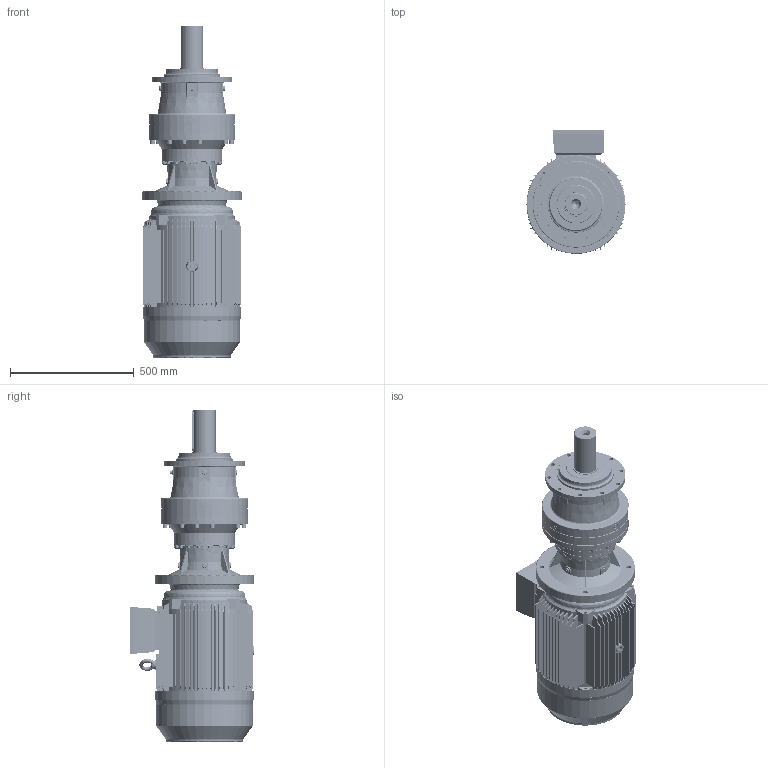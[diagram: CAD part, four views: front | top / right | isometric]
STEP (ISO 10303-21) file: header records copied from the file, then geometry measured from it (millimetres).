
FILE_DESCRIPTION (( 'STEP AP203' ), '1' );
FILE_NAME ('PVL-2302L-HS200-4.STEP', '2019-05-22T09:02:17', ( '' ), ( '' ), 'SwSTEP 2.0', 'SolidWorks 2012', '' );
FILE_SCHEMA (( 'CONFIG_CONTROL_DESIGN' ));
Products named in the file (18): PVL-2302L-HS200-4; HS200-4-B5; 200-4B5; ﾍﾟYE3-200L-4.6.8C+ﾎA+ｳ_-ｼ+､; Plain parallel keys_GB_CONNECTING_PIECE_KEYS_CSK 16X100; Y2-200-4.6.8¦¾Íß¦ð-Ô©Ã_-¼+¤; Y2-200-2.4.6.8ｦｾﾂ-ｩﾃ_-ｼ+､; Y2-200-4.6.8Ã¦Íß¦ð-Ô©Ã_-¼+¤; Y2-200+ｷﾎｨB5_-ｼ+､; Eyebolts GB_GB_FASTENER_SCREWS_FRS M16-N; MN2-200ﾀiﾍ_-ｼ+､; FL7A_Varsayìlan; Y2-200-4.6.8-ｦﾈﾁﾂ-ｩﾃ_-ｼ+､; PNL_2302L_0_0_A20_B5_ML31A_FL7A_0_0_0_0_0_0_0_0_0_0_0_M1; 15200B5_Varsayìlan; EK2302L_Varsayìlan; ML31A_Varsayìlan; P23_Varsayìlan
Assembly tree (17 placements, depth 4):
  PVL-2302L-HS200-4
    PNL_2302L_0_0_A20_B5_ML31A_FL7A_0_0_0_0_0_0_0_0_0_0_0_M1
      P23_Varsayìlan
      15200B5_Varsayìlan
      ML31A_Varsayìlan
      EK2302L_Varsayìlan
      FL7A_Varsayìlan
    HS200-4-B5
      200-4B5
        Y2-200-4.6.8-ｦﾈﾁﾂ-ｩﾃ_-ｼ+､
        MN2-200ﾀiﾍ_-ｼ+､
        Eyebolts GB_GB_FASTENER_SCREWS_FRS M16-N
        Y2-200+ｷﾎｨB5_-ｼ+､
        Y2-200-4.6.8Ã¦Íß¦ð-Ô©Ã_-¼+¤
        ﾍﾟYE3-200L-4.6.8C+ﾎA+ｳ_-ｼ+､
        Y2-200-2.4.6.8ｦｾﾂ-ｩﾃ_-ｼ+､
        Y2-200-4.6.8¦¾Íß¦ð-Ô©Ã_-¼+¤
        Plain parallel keys_GB_CONNECTING_PIECE_KEYS_CSK 16X100
Bounding box: 400 x 501.01 x 1341.2 mm (x, y, z)
Volume: 49261405.1 mm3; surface area: 5369381 mm2
Topology: 18 solids, 18 shells, 4851 faces, 12090 edges, 7369 vertices
Faces by surface type: cylinder 1601, cone 1551, plane 1237, bspline 462
Entity records: 170894 total; most frequent: CARTESIAN_POINT 54710, DIRECTION 24716, ORIENTED_EDGE 23984, EDGE_CURVE 11992, AXIS2_PLACEMENT_3D 9862, VERTEX_POINT 7369, CIRCLE 5450, EDGE_LOOP 5191
